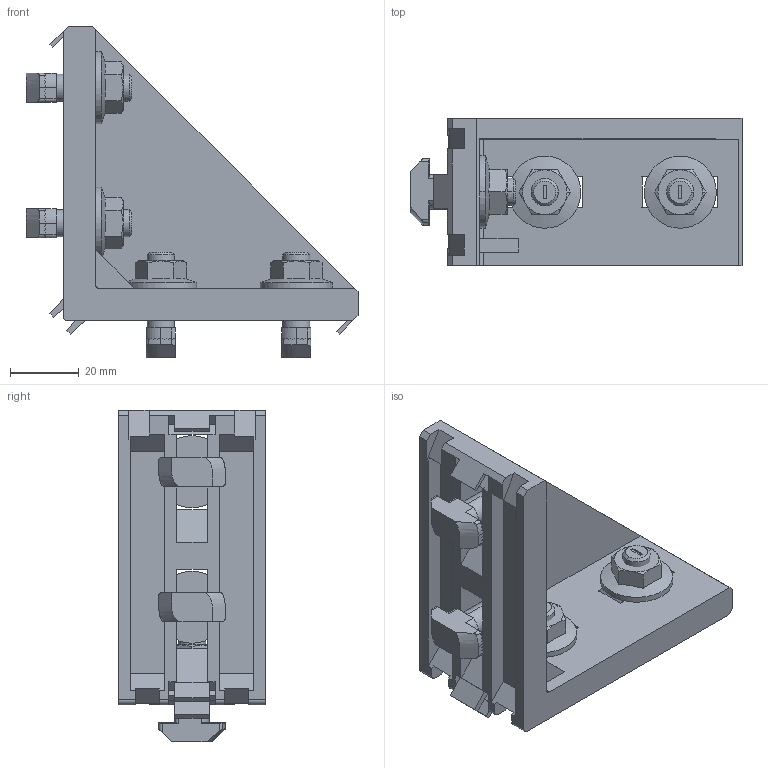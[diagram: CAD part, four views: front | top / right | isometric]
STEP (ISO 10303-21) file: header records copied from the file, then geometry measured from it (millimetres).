
FILE_DESCRIPTION (( 'STEP AP203' ), '1' );
FILE_NAME ('0110W9045ZNSZ.STEP', '2024-03-12T12:31:27', ( 'Windows-Benutzer' ), ( '' ), 'SwSTEP 2.0', 'SolidWorks 2023', '' );
FILE_SCHEMA (( 'CONFIG_CONTROL_DESIGN' ));
Length unit declared in the file: millimetre
Products named in the file (1): 0110W9045ZNSZ
Bounding box: 96.8 x 43 x 96.8 mm (x, y, z)
Volume: 73352.5 mm3; surface area: 37371.9 mm2
Topology: 9 solids, 9 shells, 508 faces, 1392 edges, 912 vertices
Faces by surface type: plane 326, cylinder 134, cone 36, bspline 12
Entity records: 17241 total; most frequent: CARTESIAN_POINT 5053, ORIENTED_EDGE 2784, DIRECTION 2190, EDGE_CURVE 1392, VERTEX_POINT 912, LINE 860, VECTOR 860, AXIS2_PLACEMENT_3D 665
